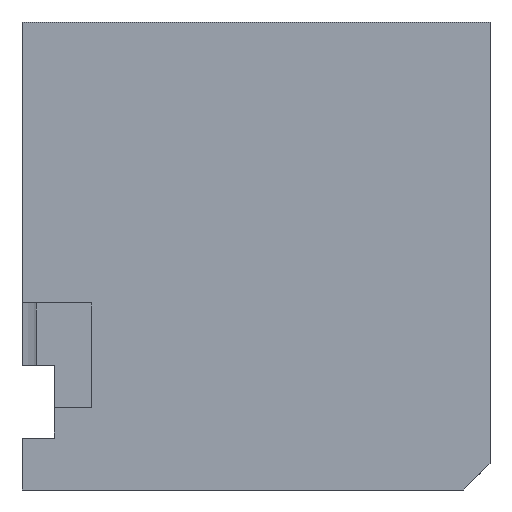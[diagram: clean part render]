
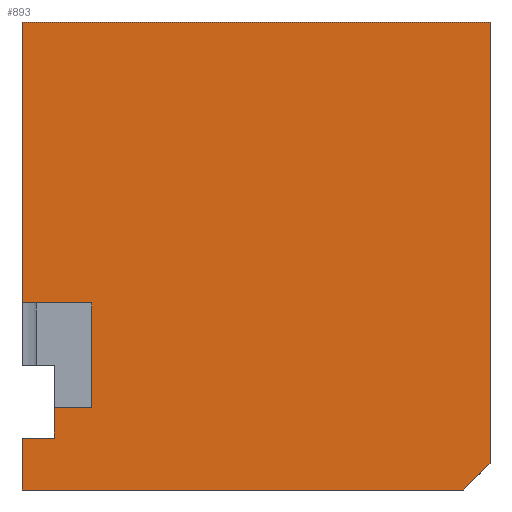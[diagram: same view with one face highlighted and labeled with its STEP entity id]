
A CAD part, left-side view. The second image highlights one B-rep face of the part: STEP entity #893.
In plain terms, the highlighted planar face has unit normal (-1, 0, 0).
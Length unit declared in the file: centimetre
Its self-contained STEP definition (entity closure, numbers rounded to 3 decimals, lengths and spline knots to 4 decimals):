
#15 = VERTEX_POINT ( 'NONE', #1305 ) ;
#39 = CARTESIAN_POINT ( 'NONE',  ( 0., 1000., 1000. ) ) ;
#50 = CARTESIAN_POINT ( 'NONE',  ( 0., 850.5777, 176.6337 ) ) ;
#52 = ORIENTED_EDGE ( 'NONE', *, *, #1188, .T. ) ;
#54 = LINE ( 'NONE', #772, #765 ) ;
#55 = LINE ( 'NONE', #132, #331 ) ;
#109 = VERTEX_POINT ( 'NONE', #1000 ) ;
#132 = CARTESIAN_POINT ( 'NONE',  ( 0., 1000., 1000. ) ) ;
#152 = VERTEX_POINT ( 'NONE', #1229 ) ;
#164 = DIRECTION ( 'NONE',  ( 0., 0., -1. ) ) ;
#170 = VERTEX_POINT ( 'NONE', #1250 ) ;
#196 = CARTESIAN_POINT ( 'NONE',  ( 0., 850.5777, 399.5886 ) ) ;
#205 = ORIENTED_EDGE ( 'NONE', *, *, #1264, .F. ) ;
#207 = VECTOR ( 'NONE', #267, 100. ) ;
#210 = VECTOR ( 'NONE', #674, 100. ) ;
#221 = CARTESIAN_POINT ( 'NONE',  ( 0., 1000., 0. ) ) ;
#229 = ORIENTED_EDGE ( 'NONE', *, *, #465, .F. ) ;
#247 = CARTESIAN_POINT ( 'NONE',  ( 0., 930.7864, 110.8203 ) ) ;
#254 = LINE ( 'NONE', #754, #1270 ) ;
#257 = CARTESIAN_POINT ( 'NONE',  ( 0., 850.5777, 176.6337 ) ) ;
#267 = DIRECTION ( 'NONE',  ( 0., 1., 0. ) ) ;
#269 = VECTOR ( 'NONE', #773, 100. ) ;
#306 = ORIENTED_EDGE ( 'NONE', *, *, #875, .T. ) ;
#323 = VERTEX_POINT ( 'NONE', #50 ) ;
#331 = VECTOR ( 'NONE', #464, 100. ) ;
#365 = CARTESIAN_POINT ( 'NONE',  ( 0., 850.5777, 399.5886 ) ) ;
#396 = CARTESIAN_POINT ( 'NONE',  ( 0., 1000., 1000. ) ) ;
#420 = VECTOR ( 'NONE', #1070, 100. ) ;
#428 = EDGE_CURVE ( 'NONE', #708, #581, #55, .T. ) ;
#446 = DIRECTION ( 'NONE',  ( 0., -1., 0. ) ) ;
#454 = EDGE_CURVE ( 'NONE', #152, #109, #1272, .T. ) ;
#463 = LINE ( 'NONE', #247, #1244 ) ;
#464 = DIRECTION ( 'NONE',  ( 0., 0., -1. ) ) ;
#465 = EDGE_CURVE ( 'NONE', #1259, #519, #1077, .T. ) ;
#471 = CARTESIAN_POINT ( 'NONE',  ( 0., 850.5777, 176.6337 ) ) ;
#486 = EDGE_CURVE ( 'NONE', #1147, #581, #679, .T. ) ;
#490 = DIRECTION ( 'NONE',  ( 0., -0.707, 0.707 ) ) ;
#502 = ORIENTED_EDGE ( 'NONE', *, *, #1254, .F. ) ;
#506 = FACE_OUTER_BOUND ( 'NONE', #558, .T. ) ;
#519 = VERTEX_POINT ( 'NONE', #597 ) ;
#532 = ORIENTED_EDGE ( 'NONE', *, *, #486, .F. ) ;
#556 = LINE ( 'NONE', #471, #420 ) ;
#558 = EDGE_LOOP ( 'NONE', ( #205, #502, #1311, #1249, #1304, #52, #306, #229, #1276, #935, #532 ) ) ;
#581 = VERTEX_POINT ( 'NONE', #683 ) ;
#597 = CARTESIAN_POINT ( 'NONE',  ( 0., 0., 57.4098 ) ) ;
#612 = VECTOR ( 'NONE', #446, 100. ) ;
#628 = AXIS2_PLACEMENT_3D ( 'NONE', #396, #895, #713 ) ;
#666 = LINE ( 'NONE', #257, #210 ) ;
#674 = DIRECTION ( 'NONE',  ( 0., -1., 0. ) ) ;
#679 = LINE ( 'NONE', #196, #207 ) ;
#680 = VERTEX_POINT ( 'NONE', #221 ) ;
#683 = CARTESIAN_POINT ( 'NONE',  ( 0., 1000., 399.5886 ) ) ;
#708 = VERTEX_POINT ( 'NONE', #1130 ) ;
#713 = DIRECTION ( 'NONE',  ( 0., 0., -1. ) ) ;
#754 = CARTESIAN_POINT ( 'NONE',  ( 0., 1000., 0. ) ) ;
#765 = VECTOR ( 'NONE', #1271, 100. ) ;
#772 = CARTESIAN_POINT ( 'NONE',  ( 0., 1000., 1000. ) ) ;
#773 = DIRECTION ( 'NONE',  ( 0., 0., -1. ) ) ;
#779 = CARTESIAN_POINT ( 'NONE',  ( 0., 0., 1000. ) ) ;
#831 = EDGE_CURVE ( 'NONE', #708, #1259, #956, .T. ) ;
#860 = DIRECTION ( 'NONE',  ( 0., -1., 0. ) ) ;
#871 = VECTOR ( 'NONE', #490, 100. ) ;
#875 = EDGE_CURVE ( 'NONE', #15, #519, #1005, .T. ) ;
#893 = ADVANCED_FACE ( 'NONE', ( #506 ), #915, .F. ) ;
#895 = DIRECTION ( 'NONE',  ( 1., 0., 0. ) ) ;
#915 = PLANE ( 'NONE',  #628 ) ;
#935 = ORIENTED_EDGE ( 'NONE', *, *, #428, .T. ) ;
#956 = LINE ( 'NONE', #39, #612 ) ;
#1000 = CARTESIAN_POINT ( 'NONE',  ( 0., 930.7864, 110.8203 ) ) ;
#1005 = LINE ( 'NONE', #1094, #871 ) ;
#1042 = CARTESIAN_POINT ( 'NONE',  ( 0., 930.7864, 110.8203 ) ) ;
#1070 = DIRECTION ( 'NONE',  ( 0., 0., 1. ) ) ;
#1077 = LINE ( 'NONE', #779, #1186 ) ;
#1083 = CARTESIAN_POINT ( 'NONE',  ( 0., 0., 1000. ) ) ;
#1094 = CARTESIAN_POINT ( 'NONE',  ( 0., 0., 57.4098 ) ) ;
#1130 = CARTESIAN_POINT ( 'NONE',  ( 0., 1000., 1000. ) ) ;
#1147 = VERTEX_POINT ( 'NONE', #365 ) ;
#1155 = EDGE_CURVE ( 'NONE', #170, #680, #54, .T. ) ;
#1168 = DIRECTION ( 'NONE',  ( 0., 1., 0. ) ) ;
#1173 = EDGE_CURVE ( 'NONE', #109, #170, #463, .T. ) ;
#1186 = VECTOR ( 'NONE', #164, 100. ) ;
#1188 = EDGE_CURVE ( 'NONE', #680, #15, #254, .T. ) ;
#1229 = CARTESIAN_POINT ( 'NONE',  ( 0., 930.7864, 176.6337 ) ) ;
#1244 = VECTOR ( 'NONE', #1168, 100. ) ;
#1249 = ORIENTED_EDGE ( 'NONE', *, *, #1173, .T. ) ;
#1250 = CARTESIAN_POINT ( 'NONE',  ( 0., 1000., 110.8203 ) ) ;
#1254 = EDGE_CURVE ( 'NONE', #152, #323, #666, .T. ) ;
#1259 = VERTEX_POINT ( 'NONE', #1083 ) ;
#1264 = EDGE_CURVE ( 'NONE', #323, #1147, #556, .T. ) ;
#1270 = VECTOR ( 'NONE', #860, 100. ) ;
#1271 = DIRECTION ( 'NONE',  ( 0., 0., -1. ) ) ;
#1272 = LINE ( 'NONE', #1042, #269 ) ;
#1276 = ORIENTED_EDGE ( 'NONE', *, *, #831, .F. ) ;
#1304 = ORIENTED_EDGE ( 'NONE', *, *, #1155, .T. ) ;
#1305 = CARTESIAN_POINT ( 'NONE',  ( 0., 57.4098, 0. ) ) ;
#1311 = ORIENTED_EDGE ( 'NONE', *, *, #454, .T. ) ;
